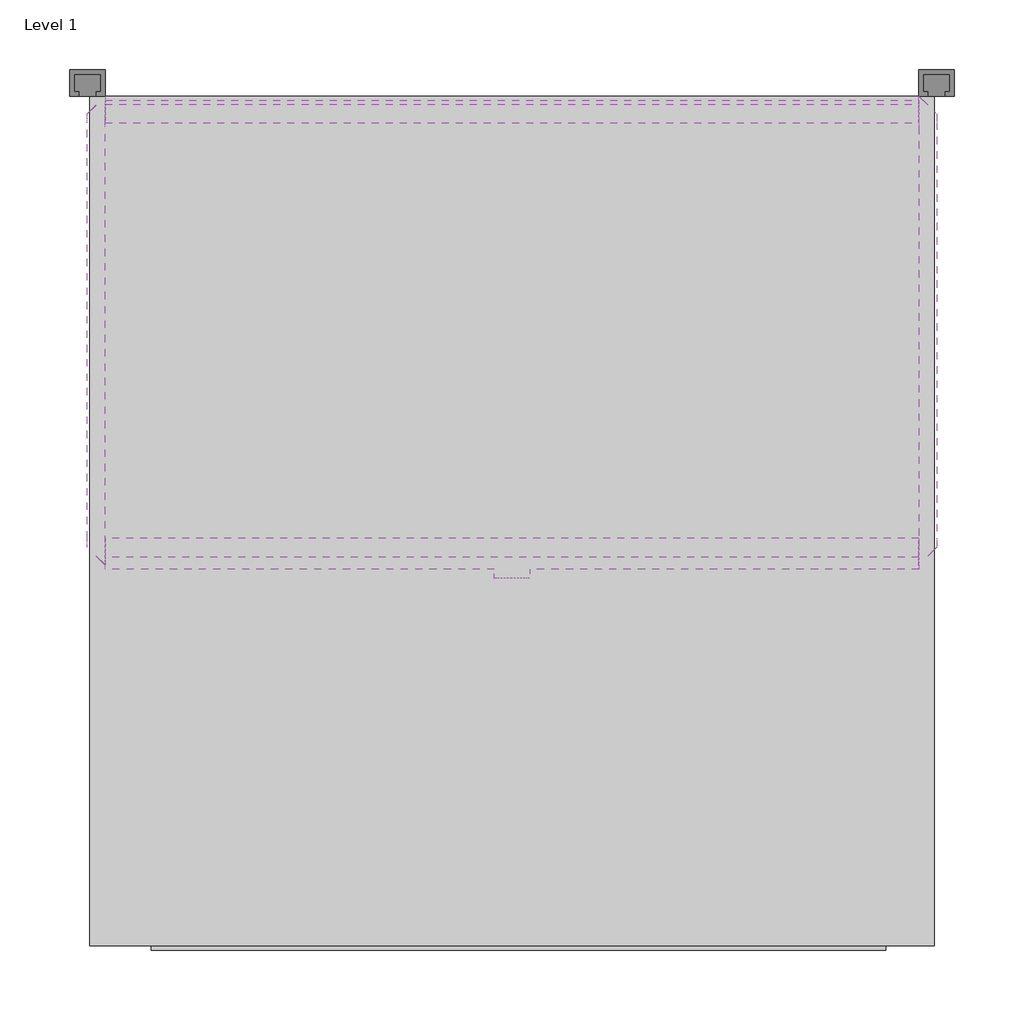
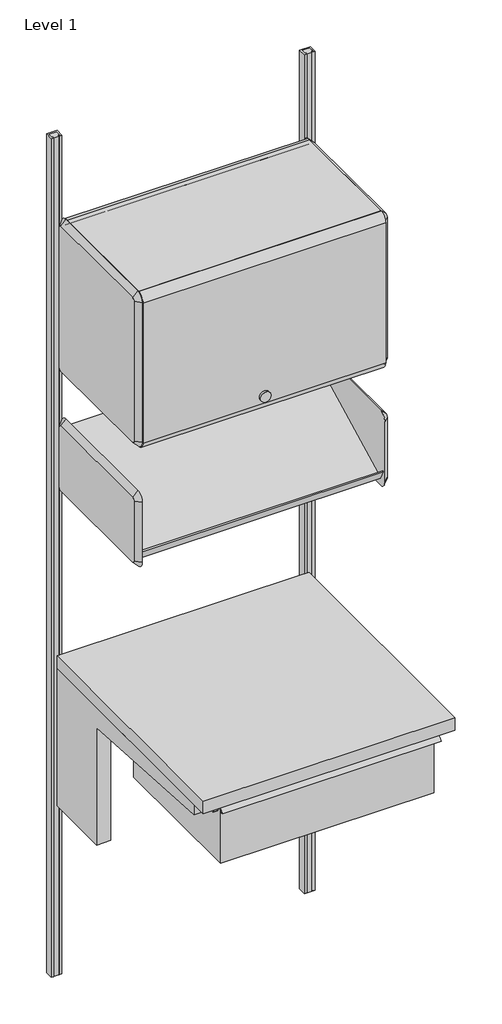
# One storey: 8 furniture elements.
"""IFC4 building model written with IfcOpenShell, lengths in millimetres."""

import ifcopenshell
import ifcopenshell.guid

model = None  # the IFC model being written
_history = None  # IfcOwnerHistory: only IFC2X3 demands one
_inside = {}  # id of a spatial element -> (the spatial element, [elements in it])
_under = {}  # id of a project, library or spatial element -> (it, [spatial elements below it])
_declared = {}  # id of a project -> (the project, [libraries it declares])
_typed = {}  # id of a type object -> (the type object, [elements of that type])
_made_of = {}  # id of a material, layer set ... -> (it, [elements and type objects made of it])


def new_model(schema):
    """Start an empty IFC model of exactly this schema.

    Asked for "IFC4X3", IfcOpenShell would pick the latest addendum, in which some entities
    have other attributes; the version numbers below select the first issue.
    IFC2X3 requires an IfcOwnerHistory on every rooted entity: one is made here for all.
    """
    global model, _history
    if schema == "IFC4X3":
        model = ifcopenshell.file(schema_version=(4, 3, 0, 0))
    else:
        model = ifcopenshell.file(schema=schema)
    _inside.clear()
    _under.clear()
    _declared.clear()
    _typed.clear()
    _made_of.clear()
    _history = None
    if model.schema == "IFC2X3":
        org = make("IfcOrganization", Name="unknown")
        user = make(
            "IfcPersonAndOrganization",
            ThePerson=make("IfcPerson", FamilyName="unknown"),
            TheOrganization=org,
        )
        app = make(
            "IfcApplication",
            ApplicationDeveloper=org,
            Version="unknown",
            ApplicationFullName="unknown",
            ApplicationIdentifier="unknown",
        )
        _history = make(
            "IfcOwnerHistory",
            OwningUser=user,
            OwningApplication=app,
            ChangeAction="ADDED",
            CreationDate=0,
        )
    return model


def make(cls, **values):
    """One entity of the class cls with the attributes given. An attribute that is None is left unset."""
    return model.create_entity(
        cls, **{name: value for name, value in values.items() if value is not None}
    )


def rooted(cls, **values):
    """An entity with a GlobalId (a new one), such as an element, a storey or a relation."""
    return make(cls, GlobalId=ifcopenshell.guid.new(), OwnerHistory=_history, **values)


def si_unit(unit_type, name, prefix=None):
    """IfcSIUnit, for example si_unit("LENGTHUNIT", "METRE", prefix="MILLI")."""
    return make("IfcSIUnit", UnitType=unit_type, Prefix=prefix, Name=name)


def assignment(units):
    """IfcUnitAssignment: the units of a project."""
    return None if units is None else make("IfcUnitAssignment", Units=units)


def point(xyz):
    """IfcCartesianPoint."""
    return None if xyz is None else make("IfcCartesianPoint", Coordinates=xyz)


def direction(xyz):
    """IfcDirection."""
    return None if xyz is None else make("IfcDirection", DirectionRatios=xyz)


def frame(location, z_axis=None, x_axis=None):
    """IfcAxis2Placement3D, a coordinate frame: its origin and axes. An axis left out is left unset."""
    return make(
        "IfcAxis2Placement3D",
        Location=point(location),
        Axis=direction(z_axis),
        RefDirection=direction(x_axis),
    )


def frame_2d(location, x_axis=None):
    """IfcAxis2Placement2D, a coordinate frame in the plane: its origin and x axis."""
    return make(
        "IfcAxis2Placement2D", Location=point(location), RefDirection=direction(x_axis)
    )


def origin():
    """The frame at (0, 0, 0) with its axes left unset."""
    return frame((0.0, 0.0, 0.0))


def place(relative_to, where):
    """IfcLocalPlacement: puts the frame where relative to a parent placement (None: the world)."""
    return make(
        "IfcLocalPlacement", PlacementRelTo=relative_to, RelativePlacement=where
    )


def context(
    kind, dimensions, precision=None, world=None, true_north=None, identifier=None
):
    """IfcGeometricRepresentationContext, for example the 3D "Model" context."""
    return make(
        "IfcGeometricRepresentationContext",
        ContextIdentifier=identifier,
        ContextType=kind,
        CoordinateSpaceDimension=dimensions,
        Precision=precision,
        WorldCoordinateSystem=world,
        TrueNorth=true_north,
    )


def project(units=None, contexts=None):
    """IfcProject with its units and contexts."""
    return rooted(
        "IfcProject",
        Name="project",
        RepresentationContexts=contexts,
        UnitsInContext=assignment(units),
    )


def spatial(cls, under=None, at=None, **own):
    """A site, building, storey or space (cls), placed at a placement, below another one or the project."""
    s = rooted(cls, ObjectPlacement=at, **own)
    if under is not None:
        _under.setdefault(under.id(), (under, []))[1].append(s)
    return s


def polyline(points):
    """IfcPolyline through the points."""
    return make("IfcPolyline", Points=[point(p) for p in points])


def circle_curve(where, radius):
    """IfcCircle in the frame where."""
    return make("IfcCircle", Position=where, Radius=radius)


def trimmed(basis, trim1, trim2, sense, master):
    """IfcTrimmedCurve: the piece of a basis curve between two trims."""
    return make(
        "IfcTrimmedCurve",
        BasisCurve=basis,
        Trim1=trim1,
        Trim2=trim2,
        SenseAgreement=sense,
        MasterRepresentation=master,
    )


def segment(curve, same_sense, transition):
    """IfcCompositeCurveSegment."""
    return make(
        "IfcCompositeCurveSegment",
        Transition=transition,
        SameSense=same_sense,
        ParentCurve=curve,
    )


def composite_curve(segments, self_intersect=None):
    """IfcCompositeCurve: segments joined end to end."""
    return make("IfcCompositeCurve", Segments=segments, SelfIntersect=self_intersect)


def outline(outer, holes=None, kind="AREA"):
    """IfcArbitraryClosedProfileDef: a profile drawn as a closed curve; with holes, ...WithVoids."""
    if holes is None:
        return make("IfcArbitraryClosedProfileDef", ProfileType=kind, OuterCurve=outer)
    return make(
        "IfcArbitraryProfileDefWithVoids",
        ProfileType=kind,
        OuterCurve=outer,
        InnerCurves=holes,
    )


def extrude(swept, where, along, depth):
    """IfcExtrudedAreaSolid: the profile swept, set in the frame where, extruded along a direction by depth."""
    return make(
        "IfcExtrudedAreaSolid",
        SweptArea=swept,
        Position=where,
        ExtrudedDirection=direction(along),
        Depth=depth,
    )


def shape(context_of_items, identifier, shape_type, items):
    """IfcShapeRepresentation: the items that make up one representation, for example the "Body"."""
    return make(
        "IfcShapeRepresentation",
        ContextOfItems=context_of_items,
        RepresentationIdentifier=identifier,
        RepresentationType=shape_type,
        Items=items,
    )


def source(mapping_origin, context_of_items, identifier, shape_type, items):
    """IfcRepresentationMap: a shape defined once, which mapped items show again and again."""
    return make(
        "IfcRepresentationMap",
        MappingOrigin=mapping_origin,
        MappedRepresentation=shape(context_of_items, identifier, shape_type, items),
    )


def transform(
    local_origin,
    x_axis=None,
    y_axis=None,
    z_axis=None,
    scale=None,
    scale2=None,
    scale3=None,
    uniform=True,
):
    """IfcCartesianTransformationOperator3D, or its non-uniform kind. x_axis, y_axis, z_axis: its Axis1, 2, 3."""
    if uniform:
        return make(
            "IfcCartesianTransformationOperator3D",
            Axis1=direction(x_axis),
            Axis2=direction(y_axis),
            LocalOrigin=point(local_origin),
            Scale=scale,
            Axis3=direction(z_axis),
        )
    return make(
        "IfcCartesianTransformationOperator3DnonUniform",
        Axis1=direction(x_axis),
        Axis2=direction(y_axis),
        LocalOrigin=point(local_origin),
        Scale=scale,
        Axis3=direction(z_axis),
        Scale2=scale2,
        Scale3=scale3,
    )


def mapped(mapping_source, mapping_target):
    """IfcMappedItem: shows the shape of a source again, moved by a transform."""
    return make(
        "IfcMappedItem", MappingSource=mapping_source, MappingTarget=mapping_target
    )


def made_of(thing, what):
    """Note that an element or type object is made of a material, layer set ...; save() writes the relation."""
    if what is not None:
        _made_of.setdefault(what.id(), (what, []))[1].append(thing)
    return thing


def element(
    cls,
    number,
    at=None,
    inside=None,
    cuts=None,
    type_object=None,
    material=None,
    context=None,
    identifier="Body",
    shape_type=None,
    held_by="IfcProductDefinitionShape",
    body=None,
    shapes=None,
    **own,
):
    """One element of the class cls, such as IfcWall. Its Tag is "e" and its number.

    at: its placement. inside: the storey or other place that contains it. cuts: it is an
    opening in that element (IfcRelVoidsElement). A single representation is given by context,
    identifier, shape_type and body (its items); several are given by shapes. held_by: the class
    of the entity that holds the representations. save() writes the other relations.
    """
    e = rooted(cls, Tag="e%d" % number, ObjectPlacement=at, **own)
    if body is not None:
        shapes = [shape(context, identifier, shape_type, body)]
    if shapes is not None:
        e.Representation = make(held_by, Representations=shapes)
    if inside is not None:
        _inside.setdefault(inside.id(), (inside, []))[1].append(e)
    if cuts is not None:
        rooted(
            "IfcRelVoidsElement", RelatingBuildingElement=cuts, RelatedOpeningElement=e
        )
    if type_object is not None:
        _typed.setdefault(type_object.id(), (type_object, []))[1].append(e)
    return made_of(e, material)


def aggregate(whole, parts):
    """IfcRelAggregates: a whole, such as a stair, and the parts it consists of."""
    return rooted("IfcRelAggregates", RelatingObject=whole, RelatedObjects=parts)


def save(model, path):
    """Write the relations noted so far, then the file.

    IfcRelAggregates (storeys below a building ...), IfcRelContainedInSpatialStructure (elements
    in a storey), IfcRelDefinesByType, IfcRelAssociatesMaterial and IfcRelDeclares: one each for
    every whole, place, type object, material and project.
    """
    for whole, parts in _under.values():
        aggregate(whole, parts)
    for where, things in _inside.values():
        rooted(
            "IfcRelContainedInSpatialStructure",
            RelatedElements=things,
            RelatingStructure=where,
        )
    for kind, things in _typed.values():
        rooted("IfcRelDefinesByType", RelatedObjects=things, RelatingType=kind)
    for what, things in _made_of.values():
        rooted("IfcRelAssociatesMaterial", RelatedObjects=things, RelatingMaterial=what)
    for by, libraries in _declared.values():
        rooted("IfcRelDeclares", RelatingContext=by, RelatedDefinitions=libraries)
    model.write(path)


def plane_surface(at):
    """IfcPlane: the flat surface through the origin of the frame at, square to its z axis."""
    return make("IfcPlane", Position=at)


def cylinder_surface(at, radius):
    """IfcCylindricalSurface: all points at the distance radius from the z axis of the frame at."""
    return make("IfcCylindricalSurface", Position=at, Radius=radius)


def revolved_surface(curve, axis_point, axis_direction):
    """IfcSurfaceOfRevolution: the curve turned about the line through axis_point along axis_direction."""
    return make(
        "IfcSurfaceOfRevolution",
        SweptCurve=make("IfcArbitraryOpenProfileDef", ProfileType="CURVE", Curve=curve),
        AxisPosition=make("IfcAxis1Placement", Location=point(axis_point), Axis=direction(axis_direction)),
    )


def advanced_brep(points, edges, surfaces, faces):
    """IfcAdvancedBrep: a solid bounded by faces that lie on surfaces and meet in shared edges.

    An edge is (start, end): straight between two places in points (the first is 0);
    or (start, end, curve); or (start, end, curve, False) where it runs against its curve.
    A face is (place in surfaces, loops), or (place, loops, False) where it looks against
    its surface's normal. A loop lists edges by number (the first is 1), with a minus sign
    where the edge is run from its end to its start. The first loop is the outer one.
    """
    corners = [point(p) for p in points]
    vertices = [make("IfcVertexPoint", VertexGeometry=c) for c in corners]
    made = []
    for start, end, *more in edges:
        made.append(
            make(
                "IfcEdgeCurve",
                EdgeStart=vertices[start],
                EdgeEnd=vertices[end],
                EdgeGeometry=more[0] if more else make("IfcPolyline", Points=[corners[start], corners[end]]),
                SameSense=more[1] if len(more) > 1 else True,
            )
        )
    hull = []
    for where, loops, *sense in faces:
        bounds = []
        for j, loop in enumerate(loops):
            ring = [make("IfcOrientedEdge", EdgeElement=made[abs(k) - 1], Orientation=k > 0) for k in loop]
            bounds.append(
                make(
                    "IfcFaceOuterBound" if j == 0 else "IfcFaceBound",
                    Bound=make("IfcEdgeLoop", EdgeList=ring),
                    Orientation=True,
                )
            )
        hull.append(make("IfcAdvancedFace", Bounds=bounds, FaceSurface=surfaces[where], SameSense=sense[0] if sense else True))
    return make("IfcAdvancedBrep", Outer=make("IfcClosedShell", CfsFaces=hull))


def furniture_7f08a233(model_context):
    return source(origin(), model_context, "Body", "SweptSolid", [
        extrude(outline(polyline([(303.2125, 177.8), (303.2125, -431.8), (-303.2125, -431.8), (-303.2125, 177.8), (303.2125, 177.8)])), frame((0.0, 0.0, 882.65), z_axis=(0.0, 0.0, 1.0), x_axis=(1.0, 0.0, 0.0)), (0.0, 0.0, 1.0), 31.75),
        extrude(outline(polyline([(858.8375, -263.525), (882.65, -263.525), (882.65, -265.1125), (857.25, -265.1125), (857.25, -250.825), (858.8375, -250.825), (858.8375, -263.525)])), frame((0.0, -406.4, 0.0), z_axis=(0.0, 1.0, 0.0), x_axis=(0.0, 0.0, 1.0)), (0.0, 0.0, 1.0), 390.525),
        extrude(outline(polyline([(858.8375, 263.525), (858.8375, 250.825), (857.25, 250.825), (857.25, 265.1125), (882.65, 265.1125), (882.65, 263.525), (858.8375, 263.525)])), frame((0.0, -406.4, 0.0), z_axis=(0.0, 1.0, 0.0), x_axis=(0.0, 0.0, 1.0)), (0.0, 0.0, 1.0), 390.525),
    ])


def furniture_03e73c74(model_context):
    return source(origin(), model_context, "Body", "SolidModel", [
        advanced_brep(
        [(180.8579955, 161.925, 1511.3), (180.8579955, -136.525, 1511.3), (180.8579955, -142.875, 1504.95), (180.8579955, -142.875, 1352.55), (180.8579955, -136.525, 1346.2), (180.8579955, 161.925, 1346.2), (180.8579955, 168.275, 1352.55), (180.8579955, 168.275, 1504.95), (168.1579955, 161.925, 1524.0), (168.1579955, 180.975, 1504.95), (168.1579955, 180.975, 1352.55), (168.1579955, 161.925, 1333.5), (168.1579955, -136.525, 1333.5), (168.1579955, -155.575, 1352.55), (168.1579955, -155.575, 1504.95), (168.1579955, -136.525, 1524.0)],
        [
            (0, 1),
            (1, 2, circle_curve(frame((180.8579955, -136.525, 1504.95), z_axis=(1.0, 2.0730084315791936e-12, -2.1742607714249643e-12), x_axis=(2.1742640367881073e-12, 0.0, 1.0)), 6.35)),
            (2, 3),
            (3, 4, circle_curve(frame((180.8579955, -136.525, 1352.55), z_axis=(1.0, 2.059685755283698e-12, 2.0463630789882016e-12), x_axis=(2.059647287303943e-12, -1.0, 0.0)), 6.35)),
            (4, 5),
            (5, 6, circle_curve(frame((180.8579955, 161.925, 1352.55), z_axis=(1.0, 2.088995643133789e-12, -2.1103119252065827e-12), x_axis=(-2.1103612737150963e-12, 0.0, -1.0)), 6.35)),
            (6, 7),
            (7, 0, circle_curve(frame((180.8579955, 161.925, 1504.95), z_axis=(1.0, 2.0783375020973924e-12, 1.9824142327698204e-12), x_axis=(-2.0783313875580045e-12, 1.0, 0.0)), 6.35)),
            (8, 9, circle_curve(frame((168.1579955, 161.925, 1504.95), z_axis=(-1.0, -2.0783375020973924e-12, -1.9824142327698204e-12), x_axis=(-2.0783313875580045e-12, 1.0, 0.0)), 19.05)),
            (9, 10),
            (10, 11, circle_curve(frame((168.1579955, 161.925, 1352.55), z_axis=(-1.0, -2.088995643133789e-12, 2.1103119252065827e-12), x_axis=(-2.1103612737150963e-12, 0.0, -1.0)), 19.05)),
            (11, 12),
            (12, 13, circle_curve(frame((168.1579955, -136.525, 1352.55), z_axis=(-1.0, -2.059685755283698e-12, -2.0463630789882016e-12), x_axis=(2.059647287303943e-12, -1.0, 0.0)), 19.05)),
            (13, 14),
            (14, 15, circle_curve(frame((168.1579955, -136.525, 1504.95), z_axis=(-1.0, -2.0730084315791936e-12, 2.1742607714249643e-12), x_axis=(2.1742640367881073e-12, 0.0, 1.0)), 19.05)),
            (15, 8),
            (15, 1),
            (0, 8),
            (14, 2),
            (13, 3),
            (12, 4),
            (11, 5),
            (10, 6),
            (9, 7),
        ],
        [
            plane_surface(frame((180.8579955, 12.7, 1428.75), z_axis=(1.0, 0.0, 0.0), x_axis=(0.0, -1.0, 0.0))),
            plane_surface(frame((168.1579955, 12.7, 1428.75), z_axis=(-1.0, 0.0, 0.0), x_axis=(0.0, -1.0, 0.0))),
            plane_surface(frame((168.1579955, 12.7, 1524.0), z_axis=(0.7071067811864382, 0.0, 0.7071067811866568), x_axis=(0.0, -1.0, 0.0))),
            revolved_surface(polyline([(180.8579955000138, -136.525, 1511.2999999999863), (168.1579955, -136.525, 1524.0)]), (187.2079955, -136.525, 1504.95), (-1.0, -2.0730084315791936e-12, 2.1742607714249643e-12)),
            plane_surface(frame((168.1579955, -155.575, 1428.75), z_axis=(0.707106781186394, -0.7071067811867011, 0.0), x_axis=(0.0, 0.0, -1.0))),
            revolved_surface(polyline([(180.85799550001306, -142.87499999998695, 1352.55), (168.1579955, -155.575, 1352.55)]), (187.2079955, -136.525, 1352.55), (-1.0, -2.059685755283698e-12, -2.0463630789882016e-12)),
            plane_surface(frame((168.1579955, 12.7, 1333.5), z_axis=(0.7071067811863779, 0.0, -0.7071067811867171), x_axis=(0.0, 1.0, 0.0))),
            revolved_surface(polyline([(180.8579955, 161.925, 1346.2), (168.15799549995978, 161.925, 1333.4999999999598)]), (187.2079955, 161.925, 1352.55), (-1.0, -2.088995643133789e-12, 2.1103119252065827e-12)),
            plane_surface(frame((168.1579955, 180.975, 1428.75), z_axis=(0.707106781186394, 0.7071067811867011, 0.0), x_axis=(0.0, 0.0, 1.0))),
            revolved_surface(polyline([(180.8579955, 168.27500000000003, 1504.95), (168.1579954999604, 180.97500000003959, 1504.95)]), (187.2079955, 161.925, 1504.95), (-1.0, -2.0783375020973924e-12, -1.9824142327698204e-12)),
        ],
        [
            (0, [[1, 2, 3, 4, 5, 6, 7, 8]]),
            (1, [[9, 10, 11, 12, 13, 14, 15, 16]]),
            (2, [[-16, 17, -1, 18]]),
            (3, [[-15, 19, -2, -17]]),
            (4, [[-14, 20, -3, -19]]),
            (5, [[-13, 21, -4, -20]]),
            (6, [[-12, 22, -5, -21]]),
            (7, [[-11, 23, -6, -22]]),
            (8, [[-10, 24, -7, -23]]),
            (9, [[-9, -18, -8, -24]]),
        ],
    ),
        advanced_brep(
        [(-428.7420045, -136.525, 1511.3), (-428.7420045, 161.925, 1511.3), (-428.7420045, 168.275, 1504.95), (-428.7420045, 168.275, 1352.55), (-428.7420045, 161.925, 1346.2), (-428.7420045, -136.525, 1346.2), (-428.7420045, -142.875, 1352.55), (-428.7420045, -142.875, 1504.95), (-416.0420045, -136.525, 1524.0), (-416.0420045, -155.575, 1504.95), (-416.0420045, -155.575, 1352.55), (-416.0420045, -136.525, 1333.5), (-416.0420045, 161.925, 1333.5), (-416.0420045, 180.975, 1352.55), (-416.0420045, 180.975, 1504.95), (-416.0420045, 161.925, 1524.0)],
        [
            (0, 1),
            (1, 2, circle_curve(frame((-428.7420045, 161.925, 1504.95), z_axis=(-1.0, 0.0, 0.0), x_axis=(0.0, 0.0, 1.0)), 6.35)),
            (2, 3),
            (3, 4, circle_curve(frame((-428.7420045, 161.925, 1352.55), z_axis=(-1.0, 0.0, 0.0), x_axis=(0.0, 1.0, 0.0)), 6.35)),
            (4, 5),
            (5, 6, circle_curve(frame((-428.7420045, -136.525, 1352.55), z_axis=(-1.0, 0.0, 0.0), x_axis=(0.0, 0.0, -1.0)), 6.35)),
            (6, 7),
            (7, 0, circle_curve(frame((-428.7420045, -136.525, 1504.95), z_axis=(-1.0, 0.0, 0.0), x_axis=(0.0, -1.0, 0.0)), 6.35)),
            (8, 9, circle_curve(frame((-416.0420045, -136.525, 1504.95), z_axis=(1.0, 0.0, 0.0), x_axis=(0.0, -1.0, 0.0)), 19.05)),
            (9, 10),
            (10, 11, circle_curve(frame((-416.0420045, -136.525, 1352.55), z_axis=(1.0, 0.0, 0.0), x_axis=(0.0, 0.0, -1.0)), 19.05)),
            (11, 12),
            (12, 13, circle_curve(frame((-416.0420045, 161.925, 1352.55), z_axis=(1.0, 0.0, 0.0), x_axis=(0.0, 1.0, 0.0)), 19.05)),
            (13, 14),
            (14, 15, circle_curve(frame((-416.0420045, 161.925, 1504.95), z_axis=(1.0, 0.0, 0.0), x_axis=(0.0, 0.0, 1.0)), 19.05)),
            (15, 8),
            (15, 1),
            (0, 8),
            (14, 2),
            (13, 3),
            (12, 4),
            (11, 5),
            (10, 6),
            (9, 7),
        ],
        [
            plane_surface(frame((-428.7420045, 12.7, 1428.75), z_axis=(-1.0, 0.0, 0.0), x_axis=(0.0, -1.0, 0.0))),
            plane_surface(frame((-416.0420045, 12.7, 1428.75), z_axis=(1.0, 0.0, 0.0), x_axis=(0.0, -1.0, 0.0))),
            plane_surface(frame((-416.0420045, 12.7, 1524.0), z_axis=(-0.7071067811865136, 0.0, 0.7071067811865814), x_axis=(0.0, 1.0, 0.0))),
            revolved_surface(polyline([(-428.7420045, 161.925, 1511.3), (-416.0420045, 161.925, 1524.0)]), (-435.0920045, 161.925, 1504.95), (1.0, 0.0, 0.0)),
            plane_surface(frame((-416.0420045, 180.975, 1428.75), z_axis=(-0.7071067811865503, 0.7071067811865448, 0.0), x_axis=(0.0, 0.0, -1.0))),
            revolved_surface(polyline([(-428.7420045, 168.27499999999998, 1352.55), (-416.0420045, 180.975, 1352.55)]), (-435.0920045, 161.925, 1352.55), (1.0, 0.0, 0.0)),
            plane_surface(frame((-416.0420045, 12.7, 1333.5), z_axis=(-0.707106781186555, 0.0, -0.70710678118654), x_axis=(0.0, -1.0, 0.0))),
            revolved_surface(polyline([(-428.7420045, -136.525, 1346.2), (-416.0420045, -136.525, 1333.5)]), (-435.0920045, -136.525, 1352.55), (1.0, 0.0, 0.0)),
            plane_surface(frame((-416.0420045, -155.575, 1428.75), z_axis=(-0.7071067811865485, -0.7071067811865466, 0.0), x_axis=(0.0, 0.0, 1.0))),
            revolved_surface(polyline([(-428.7420045, -142.87499999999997, 1504.95), (-416.0420045, -155.575, 1504.95)]), (-435.0920045, -136.525, 1504.95), (1.0, 0.0, 0.0)),
        ],
        [
            (0, [[1, 2, 3, 4, 5, 6, 7, 8]]),
            (1, [[9, 10, 11, 12, 13, 14, 15, 16]]),
            (2, [[-16, 17, -1, 18]]),
            (3, [[-15, 19, -2, -17]]),
            (4, [[-14, 20, -3, -19]]),
            (5, [[-13, 21, -4, -20]]),
            (6, [[-12, 22, -5, -21]]),
            (7, [[-11, 23, -6, -22]]),
            (8, [[-10, 24, -7, -23]]),
            (9, [[-9, -18, -8, -24]]),
        ],
    ),
        extrude(outline(polyline([(-137.2094993, 1350.4179666), (-149.845093, 1374.8467844), (-147.0173828, 1376.2907216), (-135.8404765, 1354.6820334), (162.5893131, 1507.0717194), (175.2453599, 1483.4470972), (172.4171401, 1482.0028998), (161.2606869, 1502.8282806), (-137.2094993, 1350.4179666)])), frame((-416.0420045, 0.0, 0.0), z_axis=(1.0, 0.0, 0.0), x_axis=(0.0, 1.0, 0.0)), (0.0, 0.0, 1.0), 584.2),
    ])


def furniture_a498aaf6(model_context):
    return source(origin(), model_context, "Body", "SweptSolid", [
        extrude(outline(composite_curve([segment(polyline([(-136.525, 2019.3), (-136.525, 2032.0), (161.925, 2032.0)]), True, "CONTINUOUS"), segment(trimmed(circle_curve(frame_2d((161.925, 2012.95)), 19.05), [point((161.925, 2032.0))], [point((180.975, 2012.95))], False, "CARTESIAN"), True, "CONTINUOUS"), segment(polyline([(180.975, 2012.95), (168.275, 2012.95)]), True, "CONTINUOUS"), segment(trimmed(circle_curve(frame_2d((161.925, 2012.95)), 6.35), [point((168.275, 2012.95))], [point((161.925, 2019.3))], True, "CARTESIAN"), True, "CONTINUOUS"), segment(polyline([(161.925, 2019.3), (-136.525, 2019.3)]), True, "CONTINUOUS")], self_intersect=False)), frame((-292.1, 0.0, 0.0), z_axis=(1.0, 0.0, 0.0), x_axis=(0.0, 1.0, 0.0)), (0.0, 0.0, 1.0), 584.2),
        extrude(outline(composite_curve([segment(trimmed(circle_curve(frame_2d((-136.525, 2012.95)), 19.05), [point((-155.575, 2012.95))], [point((-136.525, 2032.0))], False, "CARTESIAN"), True, "CONTINUOUS"), segment(polyline([(-136.525, 2032.0), (-136.525, 1638.3)]), True, "CONTINUOUS"), segment(trimmed(circle_curve(frame_2d((-136.525, 1657.35)), 19.05), [point((-136.525, 1638.3))], [point((-155.575, 1657.35))], False, "CARTESIAN"), True, "CONTINUOUS"), segment(polyline([(-155.575, 1657.35), (-155.575, 2012.95)]), True, "CONTINUOUS")], self_intersect=False)), frame((-292.1, 0.0, 0.0), z_axis=(1.0, 0.0, 0.0), x_axis=(0.0, 1.0, 0.0)), (0.0, 0.0, 1.0), 584.2),
        extrude(outline(composite_curve([segment(trimmed(circle_curve(frame_2d((1676.3618906, 0.0201199)), 12.7253951), [point((1676.3618906, 12.745515))], [point((1676.3618906, -12.7052752))], False, "CARTESIAN"), True, "CONTINUOUS"), segment(trimmed(circle_curve(frame_2d((1676.3618906, 0.0201199)), 12.7253951), [point((1676.3618906, -12.7052752))], [point((1676.3618906, 12.745515))], False, "CARTESIAN"), True, "CONTINUOUS")], self_intersect=False)), frame((0.0, -161.925, 0.0), z_axis=(0.0, 1.0, 0.0), x_axis=(0.0, 0.0, 1.0)), (0.0, 0.0, 1.0), 6.35),
    ])


def furniture_ede18b92(model_context):
    return source(origin(), model_context, "Body", "SolidModel", [
        extrude(outline(polyline([(-136.525, 1676.4), (158.75, 1676.4), (158.75, 1701.8), (161.925, 1701.8), (161.925, 1657.3152313), (-136.525, 1657.3152313), (-136.525, 1676.4)])), frame((-416.0420045, 0.0, 0.0), z_axis=(1.0, 0.0, 0.0), x_axis=(0.0, 1.0, 0.0)), (0.0, 0.0, 1.0), 584.2),
        advanced_brep(
        [(168.1579955, -155.575, 2012.95), (168.1579955, -155.575, 1657.35), (180.8579955, -142.875, 1657.35), (180.8579955, -142.875, 2012.95), (180.8579955, 161.925, 2019.3), (180.8579955, -136.525, 2019.3), (180.8579955, -136.525, 1651.0), (180.8579955, 161.925, 1651.0), (180.8579955, 168.275, 1657.35), (180.8579955, 168.275, 2012.95), (168.1579955, -136.525, 1638.3), (168.1579955, 161.925, 1638.3), (168.1579955, 180.975, 1657.35), (168.1579955, 180.975, 2012.95), (168.1579955, 161.925, 2032.0), (168.1579955, -136.525, 2032.0)],
        [
            (0, 1),
            (1, 2),
            (2, 3),
            (3, 0),
            (4, 5),
            (5, 3, circle_curve(frame((180.8579955, -136.525, 2012.95), z_axis=(1.0, 0.0, 0.0), x_axis=(0.0, 0.0, 1.0)), 6.35)),
            (2, 6, circle_curve(frame((180.8579955, -136.525, 1657.35), z_axis=(1.0, 0.0, 0.0), x_axis=(0.0, -1.0, 0.0)), 6.35)),
            (6, 7),
            (7, 8, circle_curve(frame((180.8579955, 161.925, 1657.35), z_axis=(1.0, 0.0, 0.0), x_axis=(0.0, 0.0, -1.0)), 6.35)),
            (8, 9),
            (9, 4, circle_curve(frame((180.8579955, 161.925, 2012.95), z_axis=(1.0, 0.0, 0.0), x_axis=(0.0, 1.0, 0.0)), 6.35)),
            (1, 10, circle_curve(frame((168.1579955, -136.525, 1657.35), z_axis=(1.0, 0.0, 0.0), x_axis=(0.0, -1.0, 0.0)), 19.05)),
            (10, 6),
            (10, 11),
            (11, 7),
            (11, 12, circle_curve(frame((168.1579955, 161.925, 1657.35), z_axis=(1.0, 0.0, 0.0), x_axis=(0.0, 0.0, -1.0)), 19.05)),
            (12, 8),
            (12, 13),
            (13, 9),
            (14, 13, circle_curve(frame((168.1579955, 161.925, 2012.95), z_axis=(-1.0, 0.0, 0.0), x_axis=(0.0, 1.0, 0.0)), 19.05)),
            (0, 15, circle_curve(frame((168.1579955, -136.525, 2012.95), z_axis=(-1.0, 0.0, 0.0), x_axis=(0.0, 0.0, 1.0)), 19.05)),
            (15, 14),
            (15, 5),
            (4, 14),
        ],
        [
            plane_surface(frame((168.1579955, -155.575, 1835.15), z_axis=(0.7071067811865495, -0.7071067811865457, 0.0), x_axis=(0.0, 0.0, -1.0))),
            plane_surface(frame((180.8579955, 12.7, 1835.15), z_axis=(1.0, 0.0, 0.0), x_axis=(0.0, -1.0, 0.0))),
            revolved_surface(polyline([(180.8579955, -142.87500000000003, 1657.35), (168.1579955, -155.575, 1657.35)]), (187.2079955, -136.525, 1657.35), (-1.0, 0.0, 0.0)),
            plane_surface(frame((168.1579955, 12.7, 1638.3), z_axis=(0.70710678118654, 0.0, -0.707106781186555), x_axis=(0.0, 1.0, 0.0))),
            revolved_surface(polyline([(180.8579955, 161.925, 1651.0), (168.1579955, 161.925, 1638.3)]), (187.2079955, 161.925, 1657.35), (-1.0, 0.0, 0.0)),
            plane_surface(frame((168.1579955, 180.975, 1835.15), z_axis=(0.7071067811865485, 0.7071067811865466, 0.0), x_axis=(0.0, 0.0, 1.0))),
            plane_surface(frame((168.1579955, 12.7, 1835.15), z_axis=(-1.0, 0.0, 0.0), x_axis=(0.0, -1.0, 0.0))),
            plane_surface(frame((168.1579955, 12.7, 2032.0), z_axis=(0.7071067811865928, 0.0, 0.7071067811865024), x_axis=(0.0, -1.0, 0.0))),
            revolved_surface(polyline([(180.8579955, -136.525, 2019.3), (168.1579955, -136.525, 2032.0)]), (187.2079955, -136.525, 2012.95), (-1.0, 0.0, 0.0)),
            revolved_surface(polyline([(180.8579955, 168.27500000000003, 2012.95), (168.1579955, 180.975, 2012.95)]), (187.2079955, 161.925, 2012.95), (-1.0, 0.0, 0.0)),
        ],
        [
            (0, [[1, 2, 3, 4]]),
            (1, [[5, 6, -3, 7, 8, 9, 10, 11]]),
            (2, [[12, 13, -7, -2]]),
            (3, [[14, 15, -8, -13]]),
            (4, [[16, 17, -9, -15]]),
            (5, [[18, 19, -10, -17]]),
            (6, [[20, -18, -16, -14, -12, -1, 21, 22]]),
            (7, [[-22, 23, -5, 24]]),
            (8, [[-21, -4, -6, -23]]),
            (9, [[-20, -24, -11, -19]]),
        ],
    ),
        advanced_brep(
        [(-416.0420045, 180.975, 2012.95), (-416.0420045, 180.975, 1657.35), (-428.7420045, 168.275, 1657.35), (-428.7420045, 168.275, 2012.95), (-428.7420045, -136.525, 2019.3), (-428.7420045, 161.925, 2019.3), (-428.7420045, 161.925, 1651.0), (-428.7420045, -136.525, 1651.0), (-428.7420045, -142.875, 1657.35), (-428.7420045, -142.875, 2012.95), (-416.0420045, 161.925, 1638.3), (-416.0420045, -136.525, 1638.3), (-416.0420045, -155.575, 1657.35), (-416.0420045, -155.575, 2012.95), (-416.0420045, -136.525, 2032.0), (-416.0420045, 161.925, 2032.0)],
        [
            (0, 1),
            (1, 2),
            (2, 3),
            (3, 0),
            (4, 5),
            (5, 3, circle_curve(frame((-428.7420045, 161.925, 2012.95), z_axis=(-1.0, 4.822808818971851e-12, 2.344791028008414e-12), x_axis=(2.3447760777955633e-12, 0.0, 1.0)), 6.35)),
            (2, 6, circle_curve(frame((-428.7420045, 161.925, 1657.35), z_axis=(-1.0, 1.0604850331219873e-12, 7.204903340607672e-12), x_axis=(1.060440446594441e-12, 1.0, 0.0)), 6.35)),
            (6, 7),
            (7, 8, circle_curve(frame((-428.7420045, -136.525, 1657.35), z_axis=(-1.0, 1.4002132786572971e-12, 0.0), x_axis=(0.0, 0.0, -1.0)), 6.35)),
            (8, 9),
            (9, 4, circle_curve(frame((-428.7420045, -136.525, 2012.95), z_axis=(-1.0, 0.0, 3.069544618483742e-12), x_axis=(0.0, -1.0, 0.0)), 6.35)),
            (1, 10, circle_curve(frame((-416.0420045, 161.925, 1657.35), z_axis=(-1.0, 1.0604850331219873e-12, 7.204903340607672e-12), x_axis=(1.060440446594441e-12, 1.0, 0.0)), 19.05)),
            (10, 6),
            (10, 11),
            (11, 7),
            (11, 12, circle_curve(frame((-416.0420045, -136.525, 1657.35), z_axis=(-1.0, 1.4002132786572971e-12, 0.0), x_axis=(0.0, 0.0, -1.0)), 19.05)),
            (12, 8),
            (12, 13),
            (13, 9),
            (14, 13, circle_curve(frame((-416.0420045, -136.525, 2012.95), z_axis=(1.0, 0.0, -3.069544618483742e-12), x_axis=(0.0, -1.0, 0.0)), 19.05)),
            (0, 15, circle_curve(frame((-416.0420045, 161.925, 2012.95), z_axis=(1.0, -4.822808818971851e-12, -2.344791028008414e-12), x_axis=(2.3447760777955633e-12, 0.0, 1.0)), 19.05)),
            (15, 14),
            (15, 5),
            (4, 14),
        ],
        [
            plane_surface(frame((-416.0420045, 180.975, 1835.15), z_axis=(-0.7071067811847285, 0.7071067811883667, 0.0), x_axis=(0.0, 0.0, -1.0))),
            plane_surface(frame((-428.7420045, 12.7, 1835.15), z_axis=(-1.0, 0.0, 0.0), x_axis=(0.0, -1.0, 0.0))),
            revolved_surface(polyline([(-428.7420045, 168.27499999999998, 1657.35), (-416.04200449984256, 180.97500000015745, 1657.35)]), (-435.0920045, 161.925, 1657.35), (1.0, -1.0604850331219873e-12, -7.204903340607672e-12)),
            plane_surface(frame((-416.0420045, 12.7, 1638.3), z_axis=(-0.7071067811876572, 0.0, -0.7071067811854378), x_axis=(0.0, -1.0, 0.0))),
            revolved_surface(polyline([(-428.7420045, -136.525, 1651.0), (-416.04200449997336, -136.525, 1638.2999999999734)]), (-435.0920045, -136.525, 1657.35), (1.0, -1.4002132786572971e-12, 0.0)),
            plane_surface(frame((-416.0420045, -155.575, 1835.15), z_axis=(-0.7071067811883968, -0.7071067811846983, 0.0), x_axis=(0.0, 0.0, 1.0))),
            plane_surface(frame((-416.0420045, 12.7, 1835.15), z_axis=(1.0, 0.0, 0.0), x_axis=(0.0, -1.0, 0.0))),
            plane_surface(frame((-416.0420045, 12.7, 2032.0), z_axis=(-0.7071067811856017, 0.0, 0.7071067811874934), x_axis=(0.0, 1.0, 0.0))),
            revolved_surface(polyline([(-428.74200450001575, 161.925, 2019.2999999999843), (-416.04200449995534, 161.925, 2032.0000000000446)]), (-435.0920045, 161.925, 2012.95), (1.0, -4.822808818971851e-12, -2.344791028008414e-12)),
            revolved_surface(polyline([(-428.7420045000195, -142.8749999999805, 2012.95), (-416.0420045, -155.575, 2012.95)]), (-435.0920045, -136.525, 2012.95), (1.0, 0.0, -3.069544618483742e-12)),
        ],
        [
            (0, [[1, 2, 3, 4]]),
            (1, [[5, 6, -3, 7, 8, 9, 10, 11]]),
            (2, [[12, 13, -7, -2]]),
            (3, [[14, 15, -8, -13]]),
            (4, [[16, 17, -9, -15]]),
            (5, [[18, 19, -10, -17]]),
            (6, [[20, -18, -16, -14, -12, -1, 21, 22]]),
            (7, [[-22, 23, -5, 24]]),
            (8, [[-21, -4, -6, -23]]),
            (9, [[-20, -24, -11, -19]]),
        ],
    ),
    ])


def furniture_224c88e3(model_context):
    return source(origin(), model_context, "Body", "SweptSolid", [
        extrude(outline(composite_curve([segment(polyline([(177.8, 882.65), (177.8, 533.4), (12.7, 533.4), (12.7, 831.85)]), True, "CONTINUOUS"), segment(trimmed(circle_curve(frame_2d((-388.143904, -2317.7524637)), 3175.0073252), [point((12.7, 831.85))], [point((-393.7, 857.25))], True, "CARTESIAN"), True, "CONTINUOUS"), segment(polyline([(-393.7, 857.25), (-393.7, 882.65), (177.8, 882.65)]), True, "CONTINUOUS")], self_intersect=False)), frame((269.875, 0.0, 0.0), z_axis=(1.0, 0.0, 0.0), x_axis=(0.0, 1.0, 0.0)), (0.0, 0.0, 1.0), 33.3375),
        extrude(outline(composite_curve([segment(polyline([(-393.7, 857.25), (-393.7, 882.65), (177.8, 882.65), (177.8, 533.4), (12.7, 533.4), (12.7, 831.85)]), True, "CONTINUOUS"), segment(trimmed(circle_curve(frame_2d((-388.143904, -2317.7524637)), 3175.0073252), [point((12.7, 831.85))], [point((-393.7, 857.25))], True, "CARTESIAN"), True, "CONTINUOUS")], self_intersect=False)), frame((-303.2125, 0.0, 0.0), z_axis=(1.0, 0.0, 0.0), x_axis=(0.0, 1.0, 0.0)), (0.0, 0.0, 1.0), 33.3375),
    ])


def furniture_ea425779(model_context):
    return source(origin(), model_context, "Body", "SweptSolid", [
        extrude(outline(polyline([(-6.3500004, -19.05), (-12.7000004, -19.05), (-12.7000004, 0.0), (12.7000004, 0.0), (12.7000004, -19.05), (6.3500004, -19.05), (6.3500004, -15.8685185), (9.5250004, -15.8685185), (9.5250004, -3.1685185), (-9.5250004, -3.1685185), (-9.5250004, -15.8685185), (-6.3500004, -15.8685185), (-6.3500004, -19.05)])), frame((0.0, 0.0, 101.6), z_axis=(0.0, 0.0, 1.0), x_axis=(1.0, 0.0, 0.0)), (0.0, 0.0, 1.0), 2133.6),
        extrude(outline(polyline([(12.7000004, 0.0), (12.7000004, -19.05), (-12.7000004, -19.05), (-12.7000004, 0.0), (12.7000004, 0.0)])), frame((0.0, 0.0, 101.6), z_axis=(0.0, 0.0, 1.0), x_axis=(1.0, 0.0, 0.0)), (0.0, 0.0, 1.0), 2133.6),
    ])


def b_6_d9770578(model_context):
    return source(origin(), model_context, "Body", "AdvancedBrep", [
        advanced_brep(
        [(-257.1076517, -176.2125, 728.6752), (257.2423483, -176.2125, 728.6752), (257.2423483, -176.2125, 868.3752), (263.5923483, -176.2125, 868.3752), (263.5923483, -176.2125, 874.6823341), (-263.4576517, -176.2125, 874.6823341), (-263.4576517, -176.2125, 868.3752), (-257.1076517, -176.2125, 868.3752), (257.2423483, 185.7375, 728.6752), (-257.1076517, 185.7375, 728.6752), (-257.1076517, 185.7375, 868.3752), (257.2423483, 185.7375, 868.3752), (263.5923483, -181.6070544, 877.9002), (263.5923483, 195.2625, 877.9002), (-263.4576517, 195.2625, 877.9002), (-263.4576517, -181.6070544, 877.9002), (244.5423483, -168.275, 877.9002), (-244.4076517, -168.275, 877.9002), (-244.4076517, 176.2125, 877.9002), (244.5423483, 176.2125, 877.9002), (263.5923483, -195.2625, 868.3752), (263.5923483, -191.8280601, 868.3752), (263.5923483, -180.4714815, 874.6823341), (263.5923483, 195.2625, 868.3752), (-263.4576517, 195.2625, 868.3752), (-263.4576517, -180.4714815, 874.6823341), (-263.4576517, -191.8280601, 868.3752), (-263.4576517, -195.2625, 868.3752), (-244.4076517, -168.275, 731.7013719), (244.5423483, -168.275, 731.7013719), (244.5423483, 176.2125, 731.7013719), (-244.4076517, 176.2125, 731.7013719)],
        [
            (0, 1),
            (1, 2),
            (2, 3),
            (3, 4),
            (4, 5),
            (5, 6),
            (6, 7),
            (7, 0),
            (8, 9),
            (9, 10),
            (10, 11),
            (11, 8),
            (0, 9),
            (8, 1),
            (11, 2),
            (12, 13),
            (13, 14),
            (14, 15),
            (15, 12),
            (16, 17),
            (17, 18),
            (18, 19),
            (19, 16),
            (7, 10),
            (12, 20, circle_curve(frame((263.5923483, -181.6070544, 863.3491859), z_axis=(1.0, 0.0, 0.0), x_axis=(0.0, 1.0, 0.0)), 14.5510141)),
            (20, 21),
            (21, 22, circle_curve(frame((263.5923483, -181.6070544, 863.3491859), z_axis=(-1.0, 0.0, 0.0), x_axis=(0.0, 1.0, 0.0)), 11.3898979)),
            (22, 4),
            (3, 23),
            (23, 13),
            (14, 24),
            (24, 6),
            (5, 25),
            (25, 26, circle_curve(frame((-263.4576517, -181.6070544, 863.3491859), z_axis=(1.0, 0.0, 0.0), x_axis=(0.0, 1.0, 0.0)), 11.3898979)),
            (26, 27),
            (27, 15, circle_curve(frame((-263.4576517, -181.6070544, 863.3491859), z_axis=(-1.0, 0.0, 0.0), x_axis=(0.0, 1.0, 0.0)), 14.5510141)),
            (27, 20),
            (26, 21),
            (25, 22),
            (24, 23),
            (28, 29),
            (29, 30),
            (30, 31),
            (31, 28),
            (28, 17),
            (16, 29),
            (19, 30),
            (18, 31),
        ],
        [
            plane_surface(frame((257.2423483, -176.2125, 728.6752), z_axis=(0.0, -1.0, 0.0), x_axis=(1.0, 0.0, 0.0))),
            plane_surface(frame((257.2423483, 185.7375, 728.6752), z_axis=(0.0, 1.0, 0.0), x_axis=(-1.0, 0.0, 0.0))),
            plane_surface(frame((-257.1076517, -176.2125, 728.6752), z_axis=(0.0, 0.0, -1.0), x_axis=(0.0, 1.0, 0.0))),
            plane_surface(frame((257.2423483, -176.2125, 728.6752), z_axis=(1.0, 0.0, 0.0), x_axis=(0.0, 1.0, 0.0))),
            plane_surface(frame((257.2423483, -176.2125, 877.9002), z_axis=(0.0, 0.0, 1.0), x_axis=(0.0, 1.0, 0.0))),
            plane_surface(frame((-257.1076517, -176.2125, 877.9002), z_axis=(-1.0, 0.0, 0.0), x_axis=(0.0, 1.0, 0.0))),
            plane_surface(frame((263.5923483, 195.2625, 877.9002), z_axis=(1.0, 0.0, 0.0), x_axis=(0.0, -1.0, 0.0))),
            plane_surface(frame((-263.4576517, 195.2625, 877.9002), z_axis=(-1.0, 0.0, 0.0), x_axis=(0.0, 1.0, 0.0))),
            cylinder_surface(frame((-263.4576517, -181.6070544, 863.3491859), z_axis=(1.0, 0.0, 0.0), x_axis=(0.0, 1.0, 0.0)), 14.5510141),
            plane_surface(frame((263.5923483, -195.2625, 868.3752), z_axis=(0.0, -7.251821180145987e-12, -1.0), x_axis=(-1.0, 0.0, 0.0))),
            revolved_surface(polyline([(-263.4576517, -170.21715650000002, 863.3491859), (263.59234829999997, -170.21715650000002, 863.3491859)]), (-263.4576517, -181.6070544, 863.3491859), (-1.0, 0.0, 0.0)),
            plane_surface(frame((263.5923483, -180.4714815, 874.6823341), z_axis=(0.0, -1.7956755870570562e-11, -1.0), x_axis=(-1.0, 0.0, 0.0))),
            plane_surface(frame((263.5923483, -176.2125, 868.3752), z_axis=(0.0, 0.0, -1.0), x_axis=(-1.0, 0.0, 0.0))),
            plane_surface(frame((263.5923483, 195.2625, 868.3752), z_axis=(0.0, 1.0, 0.0), x_axis=(-1.0, 0.0, 0.0))),
            plane_surface(frame((244.5423483, -168.275, 731.7013719), z_axis=(0.0, 0.0, 1.0), x_axis=(-1.0, 0.0, 0.0))),
            plane_surface(frame((-244.4076517, -168.275, 877.9002), z_axis=(0.0, 1.0, 0.0), x_axis=(0.0, 0.0, -1.0))),
            plane_surface(frame((244.5423483, -168.275, 877.9002), z_axis=(-1.0, 0.0, 0.0), x_axis=(0.0, 0.0, -1.0))),
            plane_surface(frame((244.5423483, 176.2125, 877.9002), z_axis=(0.0, -1.0, 0.0), x_axis=(0.0, 0.0, -1.0))),
            plane_surface(frame((-244.4076517, 176.2125, 877.9002), z_axis=(1.0, 0.0, 0.0), x_axis=(0.0, 0.0, -1.0))),
        ],
        [
            (0, [[1, 2, 3, 4, 5, 6, 7, 8]]),
            (1, [[9, 10, 11, 12]]),
            (2, [[-1, 13, -9, 14]]),
            (3, [[-14, -12, 15, -2]]),
            (4, [[16, 17, 18, 19], [20, 21, 22, 23]]),
            (5, [[-13, -8, 24, -10]]),
            (6, [[-16, 25, 26, 27, 28, -4, 29, 30]]),
            (7, [[31, 32, -6, 33, 34, 35, 36, -18]]),
            (8, [[-25, -19, -36, 37]]),
            (9, [[-26, -37, -35, 38]]),
            (10, [[-27, -38, -34, 39]]),
            (11, [[-28, -39, -33, -5]]),
            (12, [[-29, -3, -15, -11, -24, -7, -32, 40]]),
            (13, [[-30, -40, -31, -17]]),
            (14, [[41, 42, 43, 44]]),
            (15, [[-41, 45, -20, 46]]),
            (16, [[-42, -46, -23, 47]]),
            (17, [[-43, -47, -22, 48]]),
            (18, [[-44, -48, -21, -45]]),
        ],
    ),
    ])


model = new_model("IFC4")

# Units and contexts
model_context = context("Model", 3, world=origin())
ifc_project = project(units=[si_unit("LENGTHUNIT", "METRE", prefix="MILLI")], contexts=[model_context])

# Site, building, storey
site = spatial("IfcSite", under=ifc_project)
building = spatial("IfcBuilding", under=site)
storey = spatial("IfcBuildingStorey", under=building, Name="Level 1", Elevation=0.0)

# Furniture
placement = place(None, origin())
furniture_shape = furniture_7f08a233(model_context)
element("IfcFurniture", 1, ObjectType="HermanMiller_CoStruc_C2141_Heavy-DutyWorkSurface : 24\"D x 24\"W Lam", at=placement, inside=storey, context=model_context, shape_type="MappedRepresentation", body=[
    mapped(furniture_shape, transform((304.8, -196.85, 0.0), x_axis=(1.0, 0.0, 0.0), y_axis=(0.0, 1.0, 0.0), z_axis=(0.0, 0.0, 1.0))),
])
furniture_2_shape = furniture_03e73c74(model_context)
element("IfcFurniture", 2, ObjectType="HermanMiller_ActionOffice_A3220_B-StyleStorageDisplay : Display 13\"D x 24\"W", at=placement, inside=storey, context=model_context, shape_type="MappedRepresentation", body=[
    mapped(furniture_2_shape, transform((428.7420045, -200.025, 0.0), x_axis=(1.0, 0.0, 0.0), y_axis=(0.0, 1.0, 0.0), z_axis=(0.0, 0.0, 1.0))),
])
furniture_3_shape = furniture_a498aaf6(model_context)
element("IfcFurniture", 3, ObjectType="HermanMiller_ActionOffice_B-StyleFlipperDoor : Paint 15-1/2H x 13D x 24W", at=placement, inside=storey, context=model_context, shape_type="MappedRepresentation", body=[
    mapped(furniture_3_shape, transform((304.8, -203.15682, 0.0), x_axis=(1.0, 0.0, 0.0), y_axis=(0.0, 1.0, 0.0), z_axis=(0.0, 0.0, 1.0))),
])
furniture_4_shape = furniture_ede18b92(model_context)
element("IfcFurniture", 4, ObjectType="HermanMiller_CoStruc_B-StyleShelf : 15-1/2H x 13D x 24W", at=placement, inside=storey, context=model_context, shape_type="MappedRepresentation", body=[
    mapped(furniture_4_shape, transform((428.7420045, -200.025, 0.0), x_axis=(1.0, 0.0, 0.0), y_axis=(0.0, 1.0, 0.0), z_axis=(0.0, 0.0, 1.0))),
])
furniture_5_shape = furniture_224c88e3(model_context)
element("IfcFurniture", 5, ObjectType="HermanMiller_CoStruc_WorkSurfaceSupportComponentAdaptorReady : 14H x 24D x 24W", at=placement, inside=storey, context=model_context, shape_type="MappedRepresentation", body=[
    mapped(furniture_5_shape, transform((304.8, -196.85, 0.0), x_axis=(1.0, 0.0, 0.0), y_axis=(0.0, 1.0, 0.0), z_axis=(0.0, 0.0, 1.0))),
])
furniture_6_shape = furniture_ea425779(model_context)
element("IfcFurniture", 6, ObjectType="HermanMiller_ActionOffice_AO213_WallStrip : 84\"H", at=placement, inside=storey, context=model_context, shape_type="MappedRepresentation", body=[
    mapped(furniture_6_shape, transform((609.6, 0.0, 0.0), x_axis=(1.0, 0.0, 0.0), y_axis=(0.0, 1.0, 0.0), z_axis=(0.0, 0.0, 1.0))),
])
element("IfcFurniture", 7, ObjectType="HermanMiller_ActionOffice_AO213_WallStrip : 84\"H", at=placement, inside=storey, context=model_context, shape_type="MappedRepresentation", body=[
    mapped(furniture_6_shape, transform((0.0, 0.0, 0.0), x_axis=(1.0, 0.0, 0.0), y_axis=(0.0, 1.0, 0.0), z_axis=(0.0, 0.0, 1.0))),
])
b_6_shape = b_6_d9770578(model_context)
element("IfcFurniture", 8, ObjectType="HermanMiller_CoStruc_CO207_Drawer : B - 6", at=placement, inside=storey, context=model_context, shape_type="MappedRepresentation", body=[
    mapped(b_6_shape, transform((309.4824517, -436.5879, 0.0), x_axis=(1.0, 0.0, 0.0), y_axis=(0.0, 1.0, 0.0), z_axis=(0.0, 0.0, 1.0))),
])

save(model, "model.ifc")
